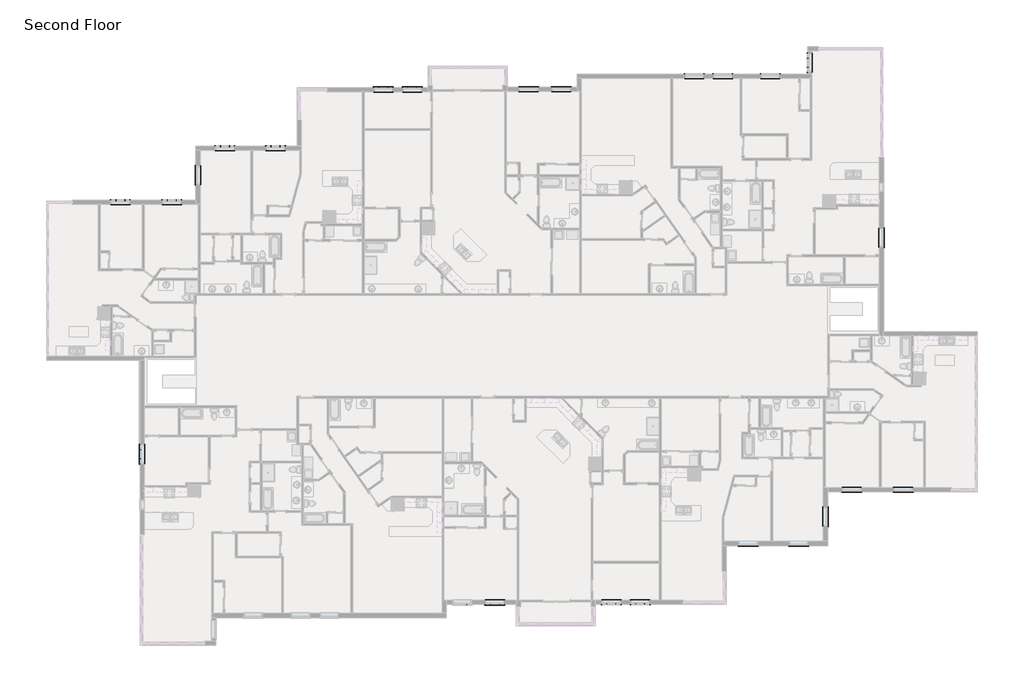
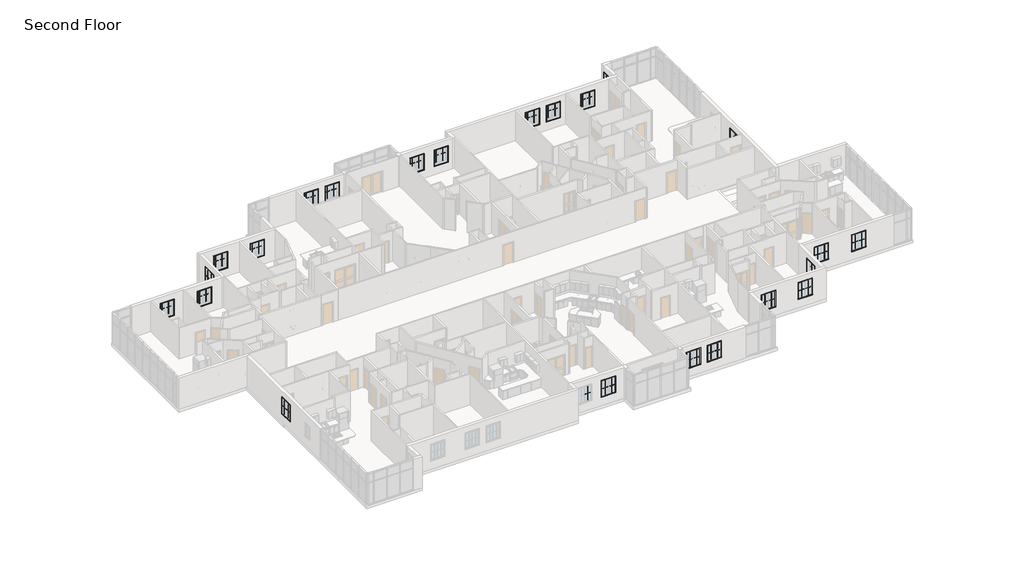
# One storey, part 17 of 17: 93 proxies.
"""IFC4 building model written with IfcOpenShell, lengths in millimetres."""

from ifc_helpers import new_model, si_unit, origin, place, context, project, spatial, transform, mapped, element, save
from components import muntin_pattern_2x2_muntin_pattern_2x2_6dad3731, muntin_pattern_2x2_muntin_pattern_2x2_a30a3345, trim_window_exterior_flat_with_sill_92b9b949, trim_window_interior_flat_picture_frame_3bb882cf

model = new_model("IFC4")

# Units and contexts
model_context = context("Model", 3, world=origin())
ifc_project = project(units=[si_unit("LENGTHUNIT", "METRE", prefix="MILLI")], contexts=[model_context])

# Site, building, storey
site = spatial("IfcSite", under=ifc_project)
building = spatial("IfcBuilding", under=site)
storey = spatial("IfcBuildingStorey", under=building, Name="Second Floor", Elevation=3048.0)

# Proxies
placement = place(None, origin())
muntin_pattern_2x2_muntin_pattern_2x2_shape = muntin_pattern_2x2_muntin_pattern_2x2_6dad3731(model_context)
element("IfcBuildingElementProxy", 1, Name="Muntin Pattern_2x2 : Muntin Pattern_2x2", ObjectType="Muntin Pattern_2x2 : Muntin Pattern_2x2", at=placement, inside=storey, context=model_context, shape_type="MappedRepresentation", body=[
    mapped(muntin_pattern_2x2_muntin_pattern_2x2_shape, transform((57292.8587704, 6466.9511142, 4032.25), x_axis=(0.0, -1.0, 0.0), y_axis=(1.0, 0.0, 0.0), z_axis=(0.0, 0.0, 1.0))),
])
element("IfcBuildingElementProxy", 2, Name="Muntin Pattern_2x2 : Muntin Pattern_2x2", ObjectType="Muntin Pattern_2x2 : Muntin Pattern_2x2", at=placement, inside=storey, context=model_context, shape_type="MappedRepresentation", body=[
    mapped(muntin_pattern_2x2_muntin_pattern_2x2_shape, transform((44168.1303001, 17237.1539258, 4032.25), x_axis=(1.0, 0.0, 0.0), y_axis=(0.0, 1.0, 0.0), z_axis=(0.0, 0.0, 1.0))),
])
element("IfcBuildingElementProxy", 3, Name="Muntin Pattern_2x2 : Muntin Pattern_2x2", ObjectType="Muntin Pattern_2x2 : Muntin Pattern_2x2", at=placement, inside=storey, context=model_context, shape_type="MappedRepresentation", body=[
    mapped(muntin_pattern_2x2_muntin_pattern_2x2_shape, transform((49322.2065151, 17237.1539258, 4032.25), x_axis=(1.0, 0.0, 0.0), y_axis=(0.0, 1.0, 0.0), z_axis=(0.0, 0.0, 1.0))),
])
element("IfcBuildingElementProxy", 4, Name="Muntin Pattern_2x2 : Muntin Pattern_2x2", ObjectType="Muntin Pattern_2x2 : Muntin Pattern_2x2", at=placement, inside=storey, context=model_context, shape_type="MappedRepresentation", body=[
    mapped(muntin_pattern_2x2_muntin_pattern_2x2_shape, transform((5255.9772364, 8703.1052849, 4032.25), x_axis=(1.0, 0.0, 0.0), y_axis=(0.0, 1.0, 0.0), z_axis=(0.0, 0.0, 1.0))),
])
element("IfcBuildingElementProxy", 5, Name="Muntin Pattern_2x2 : Muntin Pattern_2x2", ObjectType="Muntin Pattern_2x2 : Muntin Pattern_2x2", at=placement, inside=storey, context=model_context, shape_type="MappedRepresentation", body=[
    mapped(muntin_pattern_2x2_muntin_pattern_2x2_shape, transform((8741.9706159, 8703.1052849, 4032.25), x_axis=(1.0, 0.0, 0.0), y_axis=(0.0, 1.0, 0.0), z_axis=(0.0, 0.0, 1.0))),
])
element("IfcBuildingElementProxy", 6, Name="Muntin Pattern_2x2 : Muntin Pattern_2x2", ObjectType="Muntin Pattern_2x2 : Muntin Pattern_2x2", at=placement, inside=storey, context=model_context, shape_type="MappedRepresentation", body=[
    mapped(muntin_pattern_2x2_muntin_pattern_2x2_shape, transform((10691.4206159, 10096.9302849, 4032.25), x_axis=(0.0, 1.0, 0.0), y_axis=(-1.0, 0.0, 0.0), z_axis=(0.0, 0.0, 1.0))),
])
element("IfcBuildingElementProxy", 7, Name="Muntin Pattern_2x2 : Muntin Pattern_2x2", ObjectType="Muntin Pattern_2x2 : Muntin Pattern_2x2", at=placement, inside=storey, context=model_context, shape_type="MappedRepresentation", body=[
    mapped(muntin_pattern_2x2_muntin_pattern_2x2_shape, transform((12342.4127788, 12360.7052849, 4032.25), x_axis=(1.0, 0.0, 0.0), y_axis=(0.0, 1.0, 0.0), z_axis=(0.0, 0.0, 1.0))),
])
element("IfcBuildingElementProxy", 8, Name="Muntin Pattern_2x2 : Muntin Pattern_2x2", ObjectType="Muntin Pattern_2x2 : Muntin Pattern_2x2", at=placement, inside=storey, context=model_context, shape_type="MappedRepresentation", body=[
    mapped(muntin_pattern_2x2_muntin_pattern_2x2_shape, transform((15770.2335512, 12360.7052849, 4032.25), x_axis=(1.0, 0.0, 0.0), y_axis=(0.0, 1.0, 0.0), z_axis=(0.0, 0.0, 1.0))),
])
element("IfcBuildingElementProxy", 9, Name="Muntin Pattern_2x2 : Muntin Pattern_2x2", ObjectType="Muntin Pattern_2x2 : Muntin Pattern_2x2", at=placement, inside=storey, context=model_context, shape_type="MappedRepresentation", body=[
    mapped(muntin_pattern_2x2_muntin_pattern_2x2_shape, transform((23091.4448571, 16338.2416823, 4032.25), x_axis=(1.0, 0.0, 0.0), y_axis=(0.0, 1.0, 0.0), z_axis=(0.0, 0.0, 1.0))),
])
element("IfcBuildingElementProxy", 10, Name="Muntin Pattern_2x2 : Muntin Pattern_2x2", ObjectType="Muntin Pattern_2x2 : Muntin Pattern_2x2", at=placement, inside=storey, context=model_context, shape_type="MappedRepresentation", body=[
    mapped(muntin_pattern_2x2_muntin_pattern_2x2_shape, transform((25039.3073571, 16338.2416823, 4032.25), x_axis=(1.0, 0.0, 0.0), y_axis=(0.0, 1.0, 0.0), z_axis=(0.0, 0.0, 1.0))),
])
element("IfcBuildingElementProxy", 11, Name="Muntin Pattern_2x2 : Muntin Pattern_2x2", ObjectType="Muntin Pattern_2x2 : Muntin Pattern_2x2", at=placement, inside=storey, context=model_context, shape_type="MappedRepresentation", body=[
    mapped(muntin_pattern_2x2_muntin_pattern_2x2_shape, transform((32933.4798474, 16350.1365339, 4032.25), x_axis=(1.0, 0.0, 0.0), y_axis=(0.0, 1.0, 0.0), z_axis=(0.0, 0.0, 1.0))),
])
element("IfcBuildingElementProxy", 12, Name="Muntin Pattern_2x2 : Muntin Pattern_2x2", ObjectType="Muntin Pattern_2x2 : Muntin Pattern_2x2", at=placement, inside=storey, context=model_context, shape_type="MappedRepresentation", body=[
    mapped(muntin_pattern_2x2_muntin_pattern_2x2_shape, transform((35152.7178001, 16350.1365339, 4032.25), x_axis=(1.0, 0.0, 0.0), y_axis=(0.0, 1.0, 0.0), z_axis=(0.0, 0.0, 1.0))),
])
element("IfcBuildingElementProxy", 13, Name="Muntin Pattern_2x2 : Muntin Pattern_2x2", ObjectType="Muntin Pattern_2x2 : Muntin Pattern_2x2", at=placement, inside=storey, context=model_context, shape_type="MappedRepresentation", body=[
    mapped(muntin_pattern_2x2_muntin_pattern_2x2_shape, transform((46113.4815143, 17237.1539258, 4032.25), x_axis=(1.0, 0.0, 0.0), y_axis=(0.0, 1.0, 0.0), z_axis=(0.0, 0.0, 1.0))),
])
element("IfcBuildingElementProxy", 14, Name="Muntin Pattern_2x2 : Muntin Pattern_2x2", ObjectType="Muntin Pattern_2x2 : Muntin Pattern_2x2", at=placement, inside=storey, context=model_context, shape_type="MappedRepresentation", body=[
    mapped(muntin_pattern_2x2_muntin_pattern_2x2_shape, transform((52166.5909229, 17728.7417038, 4032.25), x_axis=(0.0, 1.0, 0.0), y_axis=(-1.0, 0.0, 0.0), z_axis=(0.0, 0.0, 1.0))),
])
element("IfcBuildingElementProxy", 15, Name="Muntin Pattern_2x2 : Muntin Pattern_2x2", ObjectType="Muntin Pattern_2x2 : Muntin Pattern_2x2", at=placement, inside=storey, context=model_context, shape_type="MappedRepresentation", body=[
    mapped(muntin_pattern_2x2_muntin_pattern_2x2_shape, transform((6897.2956159, -8816.1337391, 4032.25), x_axis=(0.0, 1.0, 0.0), y_axis=(-1.0, 0.0, 0.0), z_axis=(0.0, 0.0, 1.0))),
])
element("IfcBuildingElementProxy", 16, Name="Muntin Pattern_2x2 : Muntin Pattern_2x2", ObjectType="Muntin Pattern_2x2 : Muntin Pattern_2x2", at=placement, inside=storey, context=model_context, shape_type="MappedRepresentation", body=[
    mapped(muntin_pattern_2x2_muntin_pattern_2x2_shape, transform((58934.1771499, -11052.2879097, 4032.25), x_axis=(-1.0, 0.0, 0.0), y_axis=(0.0, -1.0, 0.0), z_axis=(0.0, 0.0, 1.0))),
])
element("IfcBuildingElementProxy", 17, Name="Muntin Pattern_2x2 : Muntin Pattern_2x2", ObjectType="Muntin Pattern_2x2 : Muntin Pattern_2x2", at=placement, inside=storey, context=model_context, shape_type="MappedRepresentation", body=[
    mapped(muntin_pattern_2x2_muntin_pattern_2x2_shape, transform((55448.1837704, -11052.2879097, 4032.25), x_axis=(-1.0, 0.0, 0.0), y_axis=(0.0, -1.0, 0.0), z_axis=(0.0, 0.0, 1.0))),
])
element("IfcBuildingElementProxy", 18, Name="Muntin Pattern_2x2 : Muntin Pattern_2x2", ObjectType="Muntin Pattern_2x2 : Muntin Pattern_2x2", at=placement, inside=storey, context=model_context, shape_type="MappedRepresentation", body=[
    mapped(muntin_pattern_2x2_muntin_pattern_2x2_shape, transform((53498.7337704, -12446.1129097, 4032.25), x_axis=(0.0, -1.0, 0.0), y_axis=(1.0, 0.0, 0.0), z_axis=(0.0, 0.0, 1.0))),
])
element("IfcBuildingElementProxy", 19, Name="Muntin Pattern_2x2 : Muntin Pattern_2x2", ObjectType="Muntin Pattern_2x2 : Muntin Pattern_2x2", at=placement, inside=storey, context=model_context, shape_type="MappedRepresentation", body=[
    mapped(muntin_pattern_2x2_muntin_pattern_2x2_shape, transform((51847.7416075, -14709.8879097, 4032.25), x_axis=(-1.0, 0.0, 0.0), y_axis=(0.0, -1.0, 0.0), z_axis=(0.0, 0.0, 1.0))),
])
element("IfcBuildingElementProxy", 20, Name="Muntin Pattern_2x2 : Muntin Pattern_2x2", ObjectType="Muntin Pattern_2x2 : Muntin Pattern_2x2", at=placement, inside=storey, context=model_context, shape_type="MappedRepresentation", body=[
    mapped(muntin_pattern_2x2_muntin_pattern_2x2_shape, transform((48419.9208351, -14709.8879097, 4032.25), x_axis=(-1.0, 0.0, 0.0), y_axis=(0.0, -1.0, 0.0), z_axis=(0.0, 0.0, 1.0))),
])
element("IfcBuildingElementProxy", 21, Name="Muntin Pattern_2x2 : Muntin Pattern_2x2", ObjectType="Muntin Pattern_2x2 : Muntin Pattern_2x2", at=placement, inside=storey, context=model_context, shape_type="MappedRepresentation", body=[
    mapped(muntin_pattern_2x2_muntin_pattern_2x2_shape, transform((41098.7095292, -18687.4243072, 4032.25), x_axis=(-1.0, 0.0, 0.0), y_axis=(0.0, -1.0, 0.0), z_axis=(0.0, 0.0, 1.0))),
])
element("IfcBuildingElementProxy", 22, Name="Muntin Pattern_2x2 : Muntin Pattern_2x2", ObjectType="Muntin Pattern_2x2 : Muntin Pattern_2x2", at=placement, inside=storey, context=model_context, shape_type="MappedRepresentation", body=[
    mapped(muntin_pattern_2x2_muntin_pattern_2x2_shape, transform((39150.8470292, -18687.4243072, 4032.25), x_axis=(-1.0, 0.0, 0.0), y_axis=(0.0, -1.0, 0.0), z_axis=(0.0, 0.0, 1.0))),
])
element("IfcBuildingElementProxy", 23, Name="Muntin Pattern_2x2 : Muntin Pattern_2x2", ObjectType="Muntin Pattern_2x2 : Muntin Pattern_2x2", at=placement, inside=storey, context=model_context, shape_type="MappedRepresentation", body=[
    mapped(muntin_pattern_2x2_muntin_pattern_2x2_shape, transform((31256.6745389, -18699.3191587, 4032.25), x_axis=(-1.0, 0.0, 0.0), y_axis=(0.0, -1.0, 0.0), z_axis=(0.0, 0.0, 1.0))),
])
element("IfcBuildingElementProxy", 24, Name="Muntin Pattern_2x2 : Muntin Pattern_2x2", ObjectType="Muntin Pattern_2x2 : Muntin Pattern_2x2", at=placement, inside=storey, context=model_context, shape_type="MappedRepresentation", body=[
    mapped(muntin_pattern_2x2_muntin_pattern_2x2_shape, transform((29037.4365862, -18699.3191587, 4032.25), x_axis=(-1.0, 0.0, 0.0), y_axis=(0.0, -1.0, 0.0), z_axis=(0.0, 0.0, 1.0))),
])
muntin_pattern_2x2_muntin_pattern_2x2_2_shape = muntin_pattern_2x2_muntin_pattern_2x2_a30a3345(model_context)
element("IfcBuildingElementProxy", 25, Name="Muntin Pattern_2x2 : Muntin Pattern_2x2", ObjectType="Muntin Pattern_2x2 : Muntin Pattern_2x2", at=placement, inside=storey, context=model_context, shape_type="MappedRepresentation", body=[
    mapped(muntin_pattern_2x2_muntin_pattern_2x2_2_shape, transform((57292.8587704, 5860.5261142, 4032.25), x_axis=(0.0, 1.0, 0.0), y_axis=(-1.0, 0.0, 0.0), z_axis=(0.0, 0.0, 1.0))),
])
element("IfcBuildingElementProxy", 26, Name="Muntin Pattern_2x2 : Muntin Pattern_2x2", ObjectType="Muntin Pattern_2x2 : Muntin Pattern_2x2", at=placement, inside=storey, context=model_context, shape_type="MappedRepresentation", body=[
    mapped(muntin_pattern_2x2_muntin_pattern_2x2_2_shape, transform((44774.5553001, 17237.1539258, 4032.25), x_axis=(-1.0, 0.0, 0.0), y_axis=(0.0, -1.0, 0.0), z_axis=(0.0, 0.0, 1.0))),
])
element("IfcBuildingElementProxy", 27, Name="Muntin Pattern_2x2 : Muntin Pattern_2x2", ObjectType="Muntin Pattern_2x2 : Muntin Pattern_2x2", at=placement, inside=storey, context=model_context, shape_type="MappedRepresentation", body=[
    mapped(muntin_pattern_2x2_muntin_pattern_2x2_2_shape, transform((49928.6315151, 17237.1539258, 4032.25), x_axis=(-1.0, 0.0, 0.0), y_axis=(0.0, -1.0, 0.0), z_axis=(0.0, 0.0, 1.0))),
])
element("IfcBuildingElementProxy", 28, Name="Muntin Pattern_2x2 : Muntin Pattern_2x2", ObjectType="Muntin Pattern_2x2 : Muntin Pattern_2x2", at=placement, inside=storey, context=model_context, shape_type="MappedRepresentation", body=[
    mapped(muntin_pattern_2x2_muntin_pattern_2x2_2_shape, transform((5862.4022364, 8703.1052849, 4032.25), x_axis=(-1.0, 0.0, 0.0), y_axis=(0.0, -1.0, 0.0), z_axis=(0.0, 0.0, 1.0))),
])
element("IfcBuildingElementProxy", 29, Name="Muntin Pattern_2x2 : Muntin Pattern_2x2", ObjectType="Muntin Pattern_2x2 : Muntin Pattern_2x2", at=placement, inside=storey, context=model_context, shape_type="MappedRepresentation", body=[
    mapped(muntin_pattern_2x2_muntin_pattern_2x2_2_shape, transform((9348.3956159, 8703.1052849, 4032.25), x_axis=(-1.0, 0.0, 0.0), y_axis=(0.0, -1.0, 0.0), z_axis=(0.0, 0.0, 1.0))),
])
element("IfcBuildingElementProxy", 30, Name="Muntin Pattern_2x2 : Muntin Pattern_2x2", ObjectType="Muntin Pattern_2x2 : Muntin Pattern_2x2", at=placement, inside=storey, context=model_context, shape_type="MappedRepresentation", body=[
    mapped(muntin_pattern_2x2_muntin_pattern_2x2_2_shape, transform((10691.4206159, 10703.3552849, 4032.25), x_axis=(0.0, -1.0, 0.0), y_axis=(1.0, 0.0, 0.0), z_axis=(0.0, 0.0, 1.0))),
])
element("IfcBuildingElementProxy", 31, Name="Muntin Pattern_2x2 : Muntin Pattern_2x2", ObjectType="Muntin Pattern_2x2 : Muntin Pattern_2x2", at=placement, inside=storey, context=model_context, shape_type="MappedRepresentation", body=[
    mapped(muntin_pattern_2x2_muntin_pattern_2x2_2_shape, transform((12948.8377788, 12360.7052849, 4032.25), x_axis=(-1.0, 0.0, 0.0), y_axis=(0.0, -1.0, 0.0), z_axis=(0.0, 0.0, 1.0))),
])
element("IfcBuildingElementProxy", 32, Name="Muntin Pattern_2x2 : Muntin Pattern_2x2", ObjectType="Muntin Pattern_2x2 : Muntin Pattern_2x2", at=placement, inside=storey, context=model_context, shape_type="MappedRepresentation", body=[
    mapped(muntin_pattern_2x2_muntin_pattern_2x2_2_shape, transform((16376.6585512, 12360.7052849, 4032.25), x_axis=(-1.0, 0.0, 0.0), y_axis=(0.0, -1.0, 0.0), z_axis=(0.0, 0.0, 1.0))),
])
element("IfcBuildingElementProxy", 33, Name="Muntin Pattern_2x2 : Muntin Pattern_2x2", ObjectType="Muntin Pattern_2x2 : Muntin Pattern_2x2", at=placement, inside=storey, context=model_context, shape_type="MappedRepresentation", body=[
    mapped(muntin_pattern_2x2_muntin_pattern_2x2_2_shape, transform((23697.8698571, 16338.2416823, 4032.25), x_axis=(-1.0, 0.0, 0.0), y_axis=(0.0, -1.0, 0.0), z_axis=(0.0, 0.0, 1.0))),
])
element("IfcBuildingElementProxy", 34, Name="Muntin Pattern_2x2 : Muntin Pattern_2x2", ObjectType="Muntin Pattern_2x2 : Muntin Pattern_2x2", at=placement, inside=storey, context=model_context, shape_type="MappedRepresentation", body=[
    mapped(muntin_pattern_2x2_muntin_pattern_2x2_2_shape, transform((25645.7323571, 16338.2416823, 4032.25), x_axis=(-1.0, 0.0, 0.0), y_axis=(0.0, -1.0, 0.0), z_axis=(0.0, 0.0, 1.0))),
])
element("IfcBuildingElementProxy", 35, Name="Muntin Pattern_2x2 : Muntin Pattern_2x2", ObjectType="Muntin Pattern_2x2 : Muntin Pattern_2x2", at=placement, inside=storey, context=model_context, shape_type="MappedRepresentation", body=[
    mapped(muntin_pattern_2x2_muntin_pattern_2x2_2_shape, transform((33539.9048474, 16350.1365339, 4032.25), x_axis=(-1.0, 0.0, 0.0), y_axis=(0.0, -1.0, 0.0), z_axis=(0.0, 0.0, 1.0))),
])
element("IfcBuildingElementProxy", 36, Name="Muntin Pattern_2x2 : Muntin Pattern_2x2", ObjectType="Muntin Pattern_2x2 : Muntin Pattern_2x2", at=placement, inside=storey, context=model_context, shape_type="MappedRepresentation", body=[
    mapped(muntin_pattern_2x2_muntin_pattern_2x2_2_shape, transform((35759.1428001, 16350.1365339, 4032.25), x_axis=(-1.0, 0.0, 0.0), y_axis=(0.0, -1.0, 0.0), z_axis=(0.0, 0.0, 1.0))),
])
element("IfcBuildingElementProxy", 37, Name="Muntin Pattern_2x2 : Muntin Pattern_2x2", ObjectType="Muntin Pattern_2x2 : Muntin Pattern_2x2", at=placement, inside=storey, context=model_context, shape_type="MappedRepresentation", body=[
    mapped(muntin_pattern_2x2_muntin_pattern_2x2_2_shape, transform((46719.9065143, 17237.1539258, 4032.25), x_axis=(-1.0, 0.0, 0.0), y_axis=(0.0, -1.0, 0.0), z_axis=(0.0, 0.0, 1.0))),
])
element("IfcBuildingElementProxy", 38, Name="Muntin Pattern_2x2 : Muntin Pattern_2x2", ObjectType="Muntin Pattern_2x2 : Muntin Pattern_2x2", at=placement, inside=storey, context=model_context, shape_type="MappedRepresentation", body=[
    mapped(muntin_pattern_2x2_muntin_pattern_2x2_2_shape, transform((52166.5909229, 18335.1667038, 4032.25), x_axis=(0.0, -1.0, 0.0), y_axis=(1.0, 0.0, 0.0), z_axis=(0.0, 0.0, 1.0))),
])
element("IfcBuildingElementProxy", 39, Name="Muntin Pattern_2x2 : Muntin Pattern_2x2", ObjectType="Muntin Pattern_2x2 : Muntin Pattern_2x2", at=placement, inside=storey, context=model_context, shape_type="MappedRepresentation", body=[
    mapped(muntin_pattern_2x2_muntin_pattern_2x2_2_shape, transform((6897.2956159, -8209.7087391, 4032.25), x_axis=(0.0, -1.0, 0.0), y_axis=(1.0, 0.0, 0.0), z_axis=(0.0, 0.0, 1.0))),
])
element("IfcBuildingElementProxy", 40, Name="Muntin Pattern_2x2 : Muntin Pattern_2x2", ObjectType="Muntin Pattern_2x2 : Muntin Pattern_2x2", at=placement, inside=storey, context=model_context, shape_type="MappedRepresentation", body=[
    mapped(muntin_pattern_2x2_muntin_pattern_2x2_2_shape, transform((58327.7521499, -11052.2879097, 4032.25), x_axis=(1.0, 0.0, 0.0), y_axis=(0.0, 1.0, 0.0), z_axis=(0.0, 0.0, 1.0))),
])
element("IfcBuildingElementProxy", 41, Name="Muntin Pattern_2x2 : Muntin Pattern_2x2", ObjectType="Muntin Pattern_2x2 : Muntin Pattern_2x2", at=placement, inside=storey, context=model_context, shape_type="MappedRepresentation", body=[
    mapped(muntin_pattern_2x2_muntin_pattern_2x2_2_shape, transform((54841.7587704, -11052.2879097, 4032.25), x_axis=(1.0, 0.0, 0.0), y_axis=(0.0, 1.0, 0.0), z_axis=(0.0, 0.0, 1.0))),
])
element("IfcBuildingElementProxy", 42, Name="Muntin Pattern_2x2 : Muntin Pattern_2x2", ObjectType="Muntin Pattern_2x2 : Muntin Pattern_2x2", at=placement, inside=storey, context=model_context, shape_type="MappedRepresentation", body=[
    mapped(muntin_pattern_2x2_muntin_pattern_2x2_2_shape, transform((53498.7337704, -13052.5379097, 4032.25), x_axis=(0.0, 1.0, 0.0), y_axis=(-1.0, 0.0, 0.0), z_axis=(0.0, 0.0, 1.0))),
])
element("IfcBuildingElementProxy", 43, Name="Muntin Pattern_2x2 : Muntin Pattern_2x2", ObjectType="Muntin Pattern_2x2 : Muntin Pattern_2x2", at=placement, inside=storey, context=model_context, shape_type="MappedRepresentation", body=[
    mapped(muntin_pattern_2x2_muntin_pattern_2x2_2_shape, transform((51241.3166075, -14709.8879097, 4032.25), x_axis=(1.0, 0.0, 0.0), y_axis=(0.0, 1.0, 0.0), z_axis=(0.0, 0.0, 1.0))),
])
element("IfcBuildingElementProxy", 44, Name="Muntin Pattern_2x2 : Muntin Pattern_2x2", ObjectType="Muntin Pattern_2x2 : Muntin Pattern_2x2", at=placement, inside=storey, context=model_context, shape_type="MappedRepresentation", body=[
    mapped(muntin_pattern_2x2_muntin_pattern_2x2_2_shape, transform((47813.4958351, -14709.8879097, 4032.25), x_axis=(1.0, 0.0, 0.0), y_axis=(0.0, 1.0, 0.0), z_axis=(0.0, 0.0, 1.0))),
])
element("IfcBuildingElementProxy", 45, Name="Muntin Pattern_2x2 : Muntin Pattern_2x2", ObjectType="Muntin Pattern_2x2 : Muntin Pattern_2x2", at=placement, inside=storey, context=model_context, shape_type="MappedRepresentation", body=[
    mapped(muntin_pattern_2x2_muntin_pattern_2x2_2_shape, transform((40492.2845292, -18687.4243072, 4032.25), x_axis=(1.0, 0.0, 0.0), y_axis=(0.0, 1.0, 0.0), z_axis=(0.0, 0.0, 1.0))),
])
element("IfcBuildingElementProxy", 46, Name="Muntin Pattern_2x2 : Muntin Pattern_2x2", ObjectType="Muntin Pattern_2x2 : Muntin Pattern_2x2", at=placement, inside=storey, context=model_context, shape_type="MappedRepresentation", body=[
    mapped(muntin_pattern_2x2_muntin_pattern_2x2_2_shape, transform((38544.4220292, -18687.4243072, 4032.25), x_axis=(1.0, 0.0, 0.0), y_axis=(0.0, 1.0, 0.0), z_axis=(0.0, 0.0, 1.0))),
])
element("IfcBuildingElementProxy", 47, Name="Muntin Pattern_2x2 : Muntin Pattern_2x2", ObjectType="Muntin Pattern_2x2 : Muntin Pattern_2x2", at=placement, inside=storey, context=model_context, shape_type="MappedRepresentation", body=[
    mapped(muntin_pattern_2x2_muntin_pattern_2x2_2_shape, transform((30650.2495389, -18699.3191587, 4032.25), x_axis=(1.0, 0.0, 0.0), y_axis=(0.0, 1.0, 0.0), z_axis=(0.0, 0.0, 1.0))),
])
trim_window_exterior_flat_with_sill_shape = trim_window_exterior_flat_with_sill_92b9b949(model_context)
element("IfcBuildingElementProxy", 48, Name="Trim-Window-Exterior-Flat : with Sill", ObjectType="Trim-Window-Exterior-Flat : with Sill", at=placement, inside=storey, context=model_context, shape_type="MappedRepresentation", body=[
    mapped(trim_window_exterior_flat_with_sill_shape, transform((57302.3837704, 6163.7386142, 5486.4), x_axis=(0.0, 1.0, 0.0), y_axis=(0.0, 0.0, 1.0), z_axis=(1.0, 0.0, 0.0))),
])
element("IfcBuildingElementProxy", 49, Name="Trim-Window-Exterior-Flat : with Sill", ObjectType="Trim-Window-Exterior-Flat : with Sill", at=placement, inside=storey, context=model_context, shape_type="MappedRepresentation", body=[
    mapped(trim_window_exterior_flat_with_sill_shape, transform((44471.3428001, 17246.6789258, 5486.4), x_axis=(-1.0, 0.0, 0.0), y_axis=(0.0, 0.0, 1.0), z_axis=(0.0, 1.0, 0.0))),
])
element("IfcBuildingElementProxy", 50, Name="Trim-Window-Exterior-Flat : with Sill", ObjectType="Trim-Window-Exterior-Flat : with Sill", at=placement, inside=storey, context=model_context, shape_type="MappedRepresentation", body=[
    mapped(trim_window_exterior_flat_with_sill_shape, transform((49625.4190151, 17246.6789258, 5486.4), x_axis=(-1.0, 0.0, 0.0), y_axis=(0.0, 0.0, 1.0), z_axis=(0.0, 1.0, 0.0))),
])
element("IfcBuildingElementProxy", 51, Name="Trim-Window-Exterior-Flat : with Sill", ObjectType="Trim-Window-Exterior-Flat : with Sill", at=placement, inside=storey, context=model_context, shape_type="MappedRepresentation", body=[
    mapped(trim_window_exterior_flat_with_sill_shape, transform((5559.1897364, 8712.6302849, 5486.4), x_axis=(-1.0, 0.0, 0.0), y_axis=(0.0, 0.0, 1.0), z_axis=(0.0, 1.0, 0.0))),
])
element("IfcBuildingElementProxy", 52, Name="Trim-Window-Exterior-Flat : with Sill", ObjectType="Trim-Window-Exterior-Flat : with Sill", at=placement, inside=storey, context=model_context, shape_type="MappedRepresentation", body=[
    mapped(trim_window_exterior_flat_with_sill_shape, transform((9045.1831159, 8712.6302849, 5486.4), x_axis=(-1.0, 0.0, 0.0), y_axis=(0.0, 0.0, 1.0), z_axis=(0.0, 1.0, 0.0))),
])
element("IfcBuildingElementProxy", 53, Name="Trim-Window-Exterior-Flat : with Sill", ObjectType="Trim-Window-Exterior-Flat : with Sill", at=placement, inside=storey, context=model_context, shape_type="MappedRepresentation", body=[
    mapped(trim_window_exterior_flat_with_sill_shape, transform((10681.8956159, 10400.1427849, 5486.4), x_axis=(0.0, -1.0, 0.0), y_axis=(0.0, 0.0, 1.0), z_axis=(-1.0, 0.0, 0.0))),
])
element("IfcBuildingElementProxy", 54, Name="Trim-Window-Exterior-Flat : with Sill", ObjectType="Trim-Window-Exterior-Flat : with Sill", at=placement, inside=storey, context=model_context, shape_type="MappedRepresentation", body=[
    mapped(trim_window_exterior_flat_with_sill_shape, transform((12645.6252788, 12370.2302849, 5486.4), x_axis=(-1.0, 0.0, 0.0), y_axis=(0.0, 0.0, 1.0), z_axis=(0.0, 1.0, 0.0))),
])
element("IfcBuildingElementProxy", 55, Name="Trim-Window-Exterior-Flat : with Sill", ObjectType="Trim-Window-Exterior-Flat : with Sill", at=placement, inside=storey, context=model_context, shape_type="MappedRepresentation", body=[
    mapped(trim_window_exterior_flat_with_sill_shape, transform((16073.4460512, 12370.2302849, 5486.4), x_axis=(-1.0, 0.0, 0.0), y_axis=(0.0, 0.0, 1.0), z_axis=(0.0, 1.0, 0.0))),
])
element("IfcBuildingElementProxy", 56, Name="Trim-Window-Exterior-Flat : with Sill", ObjectType="Trim-Window-Exterior-Flat : with Sill", at=placement, inside=storey, context=model_context, shape_type="MappedRepresentation", body=[
    mapped(trim_window_exterior_flat_with_sill_shape, transform((23394.6573571, 16347.7666823, 5486.4), x_axis=(-1.0, 0.0, 0.0), y_axis=(0.0, 0.0, 1.0), z_axis=(0.0, 1.0, 0.0))),
])
element("IfcBuildingElementProxy", 57, Name="Trim-Window-Exterior-Flat : with Sill", ObjectType="Trim-Window-Exterior-Flat : with Sill", at=placement, inside=storey, context=model_context, shape_type="MappedRepresentation", body=[
    mapped(trim_window_exterior_flat_with_sill_shape, transform((25342.5198571, 16347.7666823, 5486.4), x_axis=(-1.0, 0.0, 0.0), y_axis=(0.0, 0.0, 1.0), z_axis=(0.0, 1.0, 0.0))),
])
element("IfcBuildingElementProxy", 58, Name="Trim-Window-Exterior-Flat : with Sill", ObjectType="Trim-Window-Exterior-Flat : with Sill", at=placement, inside=storey, context=model_context, shape_type="MappedRepresentation", body=[
    mapped(trim_window_exterior_flat_with_sill_shape, transform((33236.6923474, 16359.6615339, 5486.4), x_axis=(-1.0, 0.0, 0.0), y_axis=(0.0, 0.0, 1.0), z_axis=(0.0, 1.0, 0.0))),
])
element("IfcBuildingElementProxy", 59, Name="Trim-Window-Exterior-Flat : with Sill", ObjectType="Trim-Window-Exterior-Flat : with Sill", at=placement, inside=storey, context=model_context, shape_type="MappedRepresentation", body=[
    mapped(trim_window_exterior_flat_with_sill_shape, transform((35455.9303001, 16359.6615339, 5486.4), x_axis=(-1.0, 0.0, 0.0), y_axis=(0.0, 0.0, 1.0), z_axis=(0.0, 1.0, 0.0))),
])
element("IfcBuildingElementProxy", 60, Name="Trim-Window-Exterior-Flat : with Sill", ObjectType="Trim-Window-Exterior-Flat : with Sill", at=placement, inside=storey, context=model_context, shape_type="MappedRepresentation", body=[
    mapped(trim_window_exterior_flat_with_sill_shape, transform((46416.6940143, 17246.6789258, 5486.4), x_axis=(-1.0, 0.0, 0.0), y_axis=(0.0, 0.0, 1.0), z_axis=(0.0, 1.0, 0.0))),
])
element("IfcBuildingElementProxy", 61, Name="Trim-Window-Exterior-Flat : with Sill", ObjectType="Trim-Window-Exterior-Flat : with Sill", at=placement, inside=storey, context=model_context, shape_type="MappedRepresentation", body=[
    mapped(trim_window_exterior_flat_with_sill_shape, transform((52157.0659229, 18031.9542038, 5486.4), x_axis=(0.0, -1.0, 0.0), y_axis=(0.0, 0.0, 1.0), z_axis=(-1.0, 0.0, 0.0))),
])
element("IfcBuildingElementProxy", 62, Name="Trim-Window-Exterior-Flat : with Sill", ObjectType="Trim-Window-Exterior-Flat : with Sill", at=placement, inside=storey, context=model_context, shape_type="MappedRepresentation", body=[
    mapped(trim_window_exterior_flat_with_sill_shape, transform((6887.7706159, -8512.9212391, 5486.4), x_axis=(0.0, -1.0, 0.0), y_axis=(0.0, 0.0, 1.0), z_axis=(-1.0, 0.0, 0.0))),
])
element("IfcBuildingElementProxy", 63, Name="Trim-Window-Exterior-Flat : with Sill", ObjectType="Trim-Window-Exterior-Flat : with Sill", at=placement, inside=storey, context=model_context, shape_type="MappedRepresentation", body=[
    mapped(trim_window_exterior_flat_with_sill_shape, transform((58630.9646499, -11061.8129097, 5486.4), x_axis=(1.0, 0.0, 0.0), y_axis=(0.0, 0.0, 1.0), z_axis=(0.0, -1.0, 0.0))),
])
element("IfcBuildingElementProxy", 64, Name="Trim-Window-Exterior-Flat : with Sill", ObjectType="Trim-Window-Exterior-Flat : with Sill", at=placement, inside=storey, context=model_context, shape_type="MappedRepresentation", body=[
    mapped(trim_window_exterior_flat_with_sill_shape, transform((55144.9712704, -11061.8129097, 5486.4), x_axis=(1.0, 0.0, 0.0), y_axis=(0.0, 0.0, 1.0), z_axis=(0.0, -1.0, 0.0))),
])
element("IfcBuildingElementProxy", 65, Name="Trim-Window-Exterior-Flat : with Sill", ObjectType="Trim-Window-Exterior-Flat : with Sill", at=placement, inside=storey, context=model_context, shape_type="MappedRepresentation", body=[
    mapped(trim_window_exterior_flat_with_sill_shape, transform((53508.2587704, -12749.3254097, 5486.4), x_axis=(0.0, 1.0, 0.0), y_axis=(0.0, 0.0, 1.0), z_axis=(1.0, 0.0, 0.0))),
])
element("IfcBuildingElementProxy", 66, Name="Trim-Window-Exterior-Flat : with Sill", ObjectType="Trim-Window-Exterior-Flat : with Sill", at=placement, inside=storey, context=model_context, shape_type="MappedRepresentation", body=[
    mapped(trim_window_exterior_flat_with_sill_shape, transform((51544.5291075, -14719.4129097, 5486.4), x_axis=(1.0, 0.0, 0.0), y_axis=(0.0, 0.0, 1.0), z_axis=(0.0, -1.0, 0.0))),
])
element("IfcBuildingElementProxy", 67, Name="Trim-Window-Exterior-Flat : with Sill", ObjectType="Trim-Window-Exterior-Flat : with Sill", at=placement, inside=storey, context=model_context, shape_type="MappedRepresentation", body=[
    mapped(trim_window_exterior_flat_with_sill_shape, transform((48116.7083351, -14719.4129097, 5486.4), x_axis=(1.0, 0.0, 0.0), y_axis=(0.0, 0.0, 1.0), z_axis=(0.0, -1.0, 0.0))),
])
element("IfcBuildingElementProxy", 68, Name="Trim-Window-Exterior-Flat : with Sill", ObjectType="Trim-Window-Exterior-Flat : with Sill", at=placement, inside=storey, context=model_context, shape_type="MappedRepresentation", body=[
    mapped(trim_window_exterior_flat_with_sill_shape, transform((40795.4970292, -18696.9493072, 5486.4), x_axis=(1.0, 0.0, 0.0), y_axis=(0.0, 0.0, 1.0), z_axis=(0.0, -1.0, 0.0))),
])
element("IfcBuildingElementProxy", 69, Name="Trim-Window-Exterior-Flat : with Sill", ObjectType="Trim-Window-Exterior-Flat : with Sill", at=placement, inside=storey, context=model_context, shape_type="MappedRepresentation", body=[
    mapped(trim_window_exterior_flat_with_sill_shape, transform((38847.6345292, -18696.9493072, 5486.4), x_axis=(1.0, 0.0, 0.0), y_axis=(0.0, 0.0, 1.0), z_axis=(0.0, -1.0, 0.0))),
])
element("IfcBuildingElementProxy", 70, Name="Trim-Window-Exterior-Flat : with Sill", ObjectType="Trim-Window-Exterior-Flat : with Sill", at=placement, inside=storey, context=model_context, shape_type="MappedRepresentation", body=[
    mapped(trim_window_exterior_flat_with_sill_shape, transform((30953.4620389, -18708.8441587, 5486.4), x_axis=(1.0, 0.0, 0.0), y_axis=(0.0, 0.0, 1.0), z_axis=(0.0, -1.0, 0.0))),
])
trim_window_interior_flat_picture_frame_shape = trim_window_interior_flat_picture_frame_3bb882cf(model_context)
element("IfcBuildingElementProxy", 71, Name="Trim-Window-Interior-Flat : Picture Frame", ObjectType="Trim-Window-Interior-Flat : Picture Frame", at=placement, inside=storey, context=model_context, shape_type="MappedRepresentation", body=[
    mapped(trim_window_interior_flat_picture_frame_shape, transform((57019.8087704, 6163.7386142, 5486.4), x_axis=(0.0, -1.0, 0.0), y_axis=(0.0, 0.0, 1.0), z_axis=(-1.0, 0.0, 0.0))),
])
element("IfcBuildingElementProxy", 72, Name="Trim-Window-Interior-Flat : Picture Frame", ObjectType="Trim-Window-Interior-Flat : Picture Frame", at=placement, inside=storey, context=model_context, shape_type="MappedRepresentation", body=[
    mapped(trim_window_interior_flat_picture_frame_shape, transform((44471.3428001, 16964.1039258, 5486.4), x_axis=(1.0, 0.0, 0.0), y_axis=(0.0, 0.0, 1.0), z_axis=(0.0, -1.0, 0.0))),
])
element("IfcBuildingElementProxy", 73, Name="Trim-Window-Interior-Flat : Picture Frame", ObjectType="Trim-Window-Interior-Flat : Picture Frame", at=placement, inside=storey, context=model_context, shape_type="MappedRepresentation", body=[
    mapped(trim_window_interior_flat_picture_frame_shape, transform((49625.4190151, 16964.1039258, 5486.4), x_axis=(1.0, 0.0, 0.0), y_axis=(0.0, 0.0, 1.0), z_axis=(0.0, -1.0, 0.0))),
])
element("IfcBuildingElementProxy", 74, Name="Trim-Window-Interior-Flat : Picture Frame", ObjectType="Trim-Window-Interior-Flat : Picture Frame", at=placement, inside=storey, context=model_context, shape_type="MappedRepresentation", body=[
    mapped(trim_window_interior_flat_picture_frame_shape, transform((5559.1897364, 8430.0552849, 5486.4), x_axis=(1.0, 0.0, 0.0), y_axis=(0.0, 0.0, 1.0), z_axis=(0.0, -1.0, 0.0))),
])
element("IfcBuildingElementProxy", 75, Name="Trim-Window-Interior-Flat : Picture Frame", ObjectType="Trim-Window-Interior-Flat : Picture Frame", at=placement, inside=storey, context=model_context, shape_type="MappedRepresentation", body=[
    mapped(trim_window_interior_flat_picture_frame_shape, transform((9045.1831159, 8430.0552849, 5486.4), x_axis=(1.0, 0.0, 0.0), y_axis=(0.0, 0.0, 1.0), z_axis=(0.0, -1.0, 0.0))),
])
element("IfcBuildingElementProxy", 76, Name="Trim-Window-Interior-Flat : Picture Frame", ObjectType="Trim-Window-Interior-Flat : Picture Frame", at=placement, inside=storey, context=model_context, shape_type="MappedRepresentation", body=[
    mapped(trim_window_interior_flat_picture_frame_shape, transform((10964.4706159, 10400.1427849, 5486.4), x_axis=(0.0, 1.0, 0.0), y_axis=(0.0, 0.0, 1.0), z_axis=(1.0, 0.0, 0.0))),
])
element("IfcBuildingElementProxy", 77, Name="Trim-Window-Interior-Flat : Picture Frame", ObjectType="Trim-Window-Interior-Flat : Picture Frame", at=placement, inside=storey, context=model_context, shape_type="MappedRepresentation", body=[
    mapped(trim_window_interior_flat_picture_frame_shape, transform((12645.6252788, 12087.6552849, 5486.4), x_axis=(1.0, 0.0, 0.0), y_axis=(0.0, 0.0, 1.0), z_axis=(0.0, -1.0, 0.0))),
])
element("IfcBuildingElementProxy", 78, Name="Trim-Window-Interior-Flat : Picture Frame", ObjectType="Trim-Window-Interior-Flat : Picture Frame", at=placement, inside=storey, context=model_context, shape_type="MappedRepresentation", body=[
    mapped(trim_window_interior_flat_picture_frame_shape, transform((16073.4460512, 12087.6552849, 5486.4), x_axis=(1.0, 0.0, 0.0), y_axis=(0.0, 0.0, 1.0), z_axis=(0.0, -1.0, 0.0))),
])
element("IfcBuildingElementProxy", 79, Name="Trim-Window-Interior-Flat : Picture Frame", ObjectType="Trim-Window-Interior-Flat : Picture Frame", at=placement, inside=storey, context=model_context, shape_type="MappedRepresentation", body=[
    mapped(trim_window_interior_flat_picture_frame_shape, transform((23394.6573571, 16065.1916823, 5486.4), x_axis=(1.0, 0.0, 0.0), y_axis=(0.0, 0.0, 1.0), z_axis=(0.0, -1.0, 0.0))),
])
element("IfcBuildingElementProxy", 80, Name="Trim-Window-Interior-Flat : Picture Frame", ObjectType="Trim-Window-Interior-Flat : Picture Frame", at=placement, inside=storey, context=model_context, shape_type="MappedRepresentation", body=[
    mapped(trim_window_interior_flat_picture_frame_shape, transform((25342.5198571, 16065.1916823, 5486.4), x_axis=(1.0, 0.0, 0.0), y_axis=(0.0, 0.0, 1.0), z_axis=(0.0, -1.0, 0.0))),
])
element("IfcBuildingElementProxy", 81, Name="Trim-Window-Interior-Flat : Picture Frame", ObjectType="Trim-Window-Interior-Flat : Picture Frame", at=placement, inside=storey, context=model_context, shape_type="MappedRepresentation", body=[
    mapped(trim_window_interior_flat_picture_frame_shape, transform((33236.6923474, 16077.0865339, 5486.4), x_axis=(1.0, 0.0, 0.0), y_axis=(0.0, 0.0, 1.0), z_axis=(0.0, -1.0, 0.0))),
])
element("IfcBuildingElementProxy", 82, Name="Trim-Window-Interior-Flat : Picture Frame", ObjectType="Trim-Window-Interior-Flat : Picture Frame", at=placement, inside=storey, context=model_context, shape_type="MappedRepresentation", body=[
    mapped(trim_window_interior_flat_picture_frame_shape, transform((35455.9303001, 16077.0865339, 5486.4), x_axis=(1.0, 0.0, 0.0), y_axis=(0.0, 0.0, 1.0), z_axis=(0.0, -1.0, 0.0))),
])
element("IfcBuildingElementProxy", 83, Name="Trim-Window-Interior-Flat : Picture Frame", ObjectType="Trim-Window-Interior-Flat : Picture Frame", at=placement, inside=storey, context=model_context, shape_type="MappedRepresentation", body=[
    mapped(trim_window_interior_flat_picture_frame_shape, transform((46416.6940143, 16964.1039258, 5486.4), x_axis=(1.0, 0.0, 0.0), y_axis=(0.0, 0.0, 1.0), z_axis=(0.0, -1.0, 0.0))),
])
element("IfcBuildingElementProxy", 84, Name="Trim-Window-Interior-Flat : Picture Frame", ObjectType="Trim-Window-Interior-Flat : Picture Frame", at=placement, inside=storey, context=model_context, shape_type="MappedRepresentation", body=[
    mapped(trim_window_interior_flat_picture_frame_shape, transform((52439.6409229, 18031.9542038, 5486.4), x_axis=(0.0, 1.0, 0.0), y_axis=(0.0, 0.0, 1.0), z_axis=(1.0, 0.0, 0.0))),
])
element("IfcBuildingElementProxy", 85, Name="Trim-Window-Interior-Flat : Picture Frame", ObjectType="Trim-Window-Interior-Flat : Picture Frame", at=placement, inside=storey, context=model_context, shape_type="MappedRepresentation", body=[
    mapped(trim_window_interior_flat_picture_frame_shape, transform((7170.3456159, -8512.9212391, 5486.4), x_axis=(0.0, 1.0, 0.0), y_axis=(0.0, 0.0, 1.0), z_axis=(1.0, 0.0, 0.0))),
])
element("IfcBuildingElementProxy", 86, Name="Trim-Window-Interior-Flat : Picture Frame", ObjectType="Trim-Window-Interior-Flat : Picture Frame", at=placement, inside=storey, context=model_context, shape_type="MappedRepresentation", body=[
    mapped(trim_window_interior_flat_picture_frame_shape, transform((58630.9646499, -10779.2379097, 5486.4), x_axis=(-1.0, 0.0, 0.0), y_axis=(0.0, 0.0, 1.0), z_axis=(0.0, 1.0, 0.0))),
])
element("IfcBuildingElementProxy", 87, Name="Trim-Window-Interior-Flat : Picture Frame", ObjectType="Trim-Window-Interior-Flat : Picture Frame", at=placement, inside=storey, context=model_context, shape_type="MappedRepresentation", body=[
    mapped(trim_window_interior_flat_picture_frame_shape, transform((55144.9712704, -10779.2379097, 5486.4), x_axis=(-1.0, 0.0, 0.0), y_axis=(0.0, 0.0, 1.0), z_axis=(0.0, 1.0, 0.0))),
])
element("IfcBuildingElementProxy", 88, Name="Trim-Window-Interior-Flat : Picture Frame", ObjectType="Trim-Window-Interior-Flat : Picture Frame", at=placement, inside=storey, context=model_context, shape_type="MappedRepresentation", body=[
    mapped(trim_window_interior_flat_picture_frame_shape, transform((53225.6837704, -12749.3254097, 5486.4), x_axis=(0.0, -1.0, 0.0), y_axis=(0.0, 0.0, 1.0), z_axis=(-1.0, 0.0, 0.0))),
])
element("IfcBuildingElementProxy", 89, Name="Trim-Window-Interior-Flat : Picture Frame", ObjectType="Trim-Window-Interior-Flat : Picture Frame", at=placement, inside=storey, context=model_context, shape_type="MappedRepresentation", body=[
    mapped(trim_window_interior_flat_picture_frame_shape, transform((51544.5291075, -14436.8379097, 5486.4), x_axis=(-1.0, 0.0, 0.0), y_axis=(0.0, 0.0, 1.0), z_axis=(0.0, 1.0, 0.0))),
])
element("IfcBuildingElementProxy", 90, Name="Trim-Window-Interior-Flat : Picture Frame", ObjectType="Trim-Window-Interior-Flat : Picture Frame", at=placement, inside=storey, context=model_context, shape_type="MappedRepresentation", body=[
    mapped(trim_window_interior_flat_picture_frame_shape, transform((48116.7083351, -14436.8379097, 5486.4), x_axis=(-1.0, 0.0, 0.0), y_axis=(0.0, 0.0, 1.0), z_axis=(0.0, 1.0, 0.0))),
])
element("IfcBuildingElementProxy", 91, Name="Trim-Window-Interior-Flat : Picture Frame", ObjectType="Trim-Window-Interior-Flat : Picture Frame", at=placement, inside=storey, context=model_context, shape_type="MappedRepresentation", body=[
    mapped(trim_window_interior_flat_picture_frame_shape, transform((40795.4970292, -18414.3743072, 5486.4), x_axis=(-1.0, 0.0, 0.0), y_axis=(0.0, 0.0, 1.0), z_axis=(0.0, 1.0, 0.0))),
])
element("IfcBuildingElementProxy", 92, Name="Trim-Window-Interior-Flat : Picture Frame", ObjectType="Trim-Window-Interior-Flat : Picture Frame", at=placement, inside=storey, context=model_context, shape_type="MappedRepresentation", body=[
    mapped(trim_window_interior_flat_picture_frame_shape, transform((38847.6345292, -18414.3743072, 5486.4), x_axis=(-1.0, 0.0, 0.0), y_axis=(0.0, 0.0, 1.0), z_axis=(0.0, 1.0, 0.0))),
])
element("IfcBuildingElementProxy", 93, Name="Trim-Window-Interior-Flat : Picture Frame", ObjectType="Trim-Window-Interior-Flat : Picture Frame", at=placement, inside=storey, context=model_context, shape_type="MappedRepresentation", body=[
    mapped(trim_window_interior_flat_picture_frame_shape, transform((30953.4620389, -18426.2691587, 5486.4), x_axis=(-1.0, 0.0, 0.0), y_axis=(0.0, 0.0, 1.0), z_axis=(0.0, 1.0, 0.0))),
])

save(model, "model.ifc")
